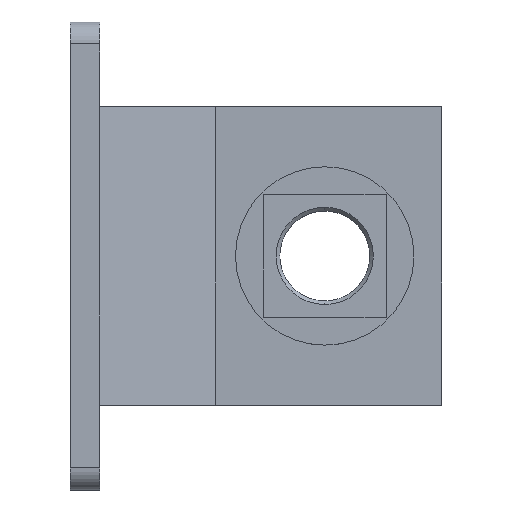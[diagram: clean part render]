
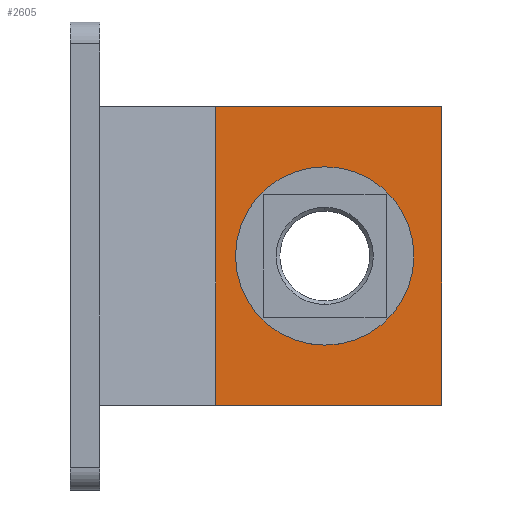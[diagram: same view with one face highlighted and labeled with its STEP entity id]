
A CAD part, top view. The second image highlights one B-rep face of the part: STEP entity #2605.
In plain terms, the highlighted planar face has unit normal (0, 0, 1).
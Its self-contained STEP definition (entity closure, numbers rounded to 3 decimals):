
#507=DIRECTION('',(0.,1.,0.));
#508=VECTOR('',#507,102.);
#509=CARTESIAN_POINT('',(-37.301,-51.,12.8));
#510=LINE('206',#509,#508);
#511=CARTESIAN_POINT('',(0.,0.,12.8));
#512=DIRECTION('',(0.,0.,1.));
#513=DIRECTION('',(1.,0.,0.));
#514=AXIS2_PLACEMENT_3D('',#511,#512,#513);
#516=CARTESIAN_POINT('',(0.,0.,12.8));
#517=DIRECTION('',(0.,0.,1.));
#518=DIRECTION('',(-1.,0.,0.));
#519=AXIS2_PLACEMENT_3D('',#516,#517,#518);
#533=DIRECTION('',(-1.,0.,0.));
#534=VECTOR('',#533,77.301);
#535=CARTESIAN_POINT('',(40.,51.,12.8));
#536=LINE('608',#535,#534);
#759=DIRECTION('',(1.,0.,0.));
#760=VECTOR('',#759,77.301);
#761=CARTESIAN_POINT('',(-37.301,-51.,12.8));
#762=LINE('607',#761,#760);
#1323=DIRECTION('',(0.,-1.,0.));
#1324=VECTOR('',#1323,102.);
#1325=CARTESIAN_POINT('',(40.,51.,12.8));
#1326=LINE('577',#1325,#1324);
#1497=CARTESIAN_POINT('',(-37.301,-51.,12.8));
#1499=VERTEX_POINT('',#1497);
#1501=CARTESIAN_POINT('',(-37.301,51.,12.8));
#1503=VERTEX_POINT('',#1501);
#1588=CARTESIAN_POINT('',(40.,51.,12.8));
#1589=CARTESIAN_POINT('',(40.,-51.,12.8));
#1590=VERTEX_POINT('',#1588);
#1591=VERTEX_POINT('',#1589);
#1608=CARTESIAN_POINT('',(30.5,0.,12.8));
#1609=CARTESIAN_POINT('',(-30.5,0.,12.8));
#1610=VERTEX_POINT('',#1608);
#1611=VERTEX_POINT('',#1609);
#2585=CARTESIAN_POINT('',(-37.301,-80.,12.8));
#2586=DIRECTION('',(0.,0.,1.));
#2587=DIRECTION('',(1.,0.,0.));
#2588=AXIS2_PLACEMENT_3D('',#2585,#2586,#2587);
#2589=PLANE('142',#2588);
#2591=ORIENTED_EDGE('608',*,*,#2590,.F.);
#2593=ORIENTED_EDGE('577',*,*,#2592,.T.);
#2595=ORIENTED_EDGE('607',*,*,#2594,.F.);
#2597=ORIENTED_EDGE('206',*,*,#2596,.T.);
#2598=EDGE_LOOP('142',(#2591,#2593,#2595,#2597));
#2599=FACE_OUTER_BOUND('142',#2598,.F.);
#2600=ORIENTED_EDGE('939',*,*,#2575,.T.);
#2602=ORIENTED_EDGE('940',*,*,#2601,.T.);
#2603=EDGE_LOOP('142',(#2600,#2602));
#2604=FACE_BOUND('142',#2603,.F.);
#2605=ADVANCED_FACE('142',(#2599,#2604),#2589,.T.);
#515=CIRCLE('939',#514,30.5);
#520=CIRCLE('940',#519,30.5);
#2575=EDGE_CURVE('939',#1610,#1611,#515,.T.);
#2590=EDGE_CURVE('608',#1590,#1503,#536,.T.);
#2592=EDGE_CURVE('577',#1590,#1591,#1326,.T.);
#2594=EDGE_CURVE('607',#1499,#1591,#762,.T.);
#2596=EDGE_CURVE('206',#1499,#1503,#510,.T.);
#2601=EDGE_CURVE('940',#1611,#1610,#520,.T.);
